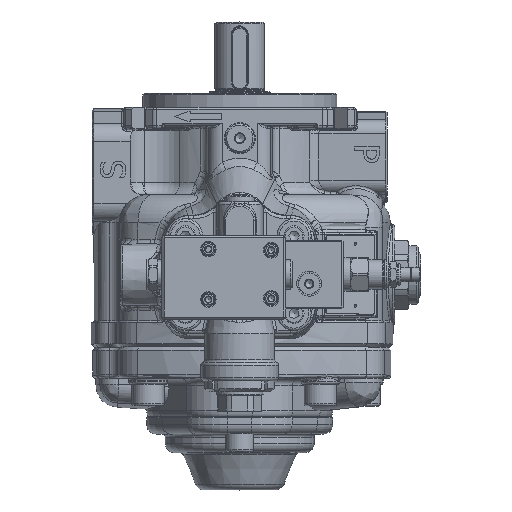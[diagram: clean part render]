
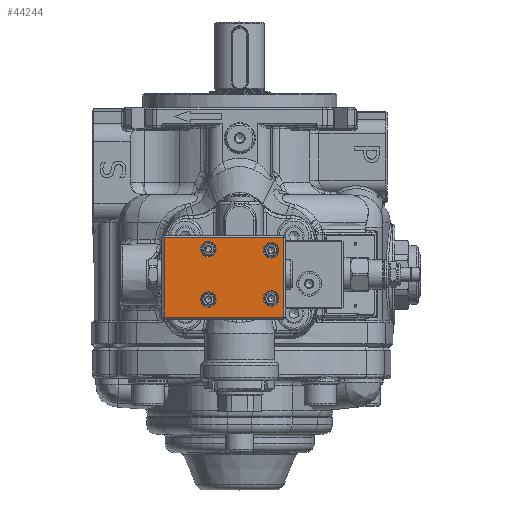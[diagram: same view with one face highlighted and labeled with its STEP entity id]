
A CAD part, top view. The second image highlights one B-rep face of the part: STEP entity #44244.
In plain terms, the highlighted planar face has unit normal (0, 0, 1).
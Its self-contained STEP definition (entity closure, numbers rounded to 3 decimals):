
#1357=FACE_BOUND('',#7500,.T.);
#1358=FACE_BOUND('',#7501,.T.);
#1359=FACE_BOUND('',#7502,.T.);
#1360=FACE_BOUND('',#7503,.T.);
#2240=PLANE('',#48589);
#4870=FACE_OUTER_BOUND('',#7499,.T.);
#7499=EDGE_LOOP('',(#38083,#38084,#38085,#38086));
#7500=EDGE_LOOP('',(#38087));
#7501=EDGE_LOOP('',(#38088));
#7502=EDGE_LOOP('',(#38089));
#7503=EDGE_LOOP('',(#38090));
#9828=CIRCLE('',#48438,5.);
#9831=CIRCLE('',#48443,5.);
#9834=CIRCLE('',#48448,5.);
#9837=CIRCLE('',#48453,5.);
#13376=LINE('',#92540,#15903);
#13377=LINE('',#92542,#15904);
#13378=LINE('',#92544,#15905);
#13379=LINE('',#92545,#15906);
#15903=VECTOR('',#59522,10.);
#15904=VECTOR('',#59523,10.);
#15905=VECTOR('',#59524,10.);
#15906=VECTOR('',#59525,10.);
#19673=VERTEX_POINT('',#91943);
#19676=VERTEX_POINT('',#91953);
#19679=VERTEX_POINT('',#91963);
#19682=VERTEX_POINT('',#91973);
#19879=VERTEX_POINT('',#92538);
#19880=VERTEX_POINT('',#92539);
#19881=VERTEX_POINT('',#92541);
#19882=VERTEX_POINT('',#92543);
#25764=EDGE_CURVE('',#19673,#19673,#9828,.T.);
#25769=EDGE_CURVE('',#19676,#19676,#9831,.T.);
#25774=EDGE_CURVE('',#19679,#19679,#9834,.T.);
#25779=EDGE_CURVE('',#19682,#19682,#9837,.T.);
#26008=EDGE_CURVE('',#19879,#19880,#13376,.T.);
#26009=EDGE_CURVE('',#19881,#19879,#13377,.T.);
#26010=EDGE_CURVE('',#19882,#19881,#13378,.T.);
#26011=EDGE_CURVE('',#19880,#19882,#13379,.T.);
#38083=ORIENTED_EDGE('',*,*,#26008,.F.);
#38084=ORIENTED_EDGE('',*,*,#26009,.F.);
#38085=ORIENTED_EDGE('',*,*,#26010,.F.);
#38086=ORIENTED_EDGE('',*,*,#26011,.F.);
#38087=ORIENTED_EDGE('',*,*,#25779,.F.);
#38088=ORIENTED_EDGE('',*,*,#25769,.F.);
#38089=ORIENTED_EDGE('',*,*,#25764,.F.);
#38090=ORIENTED_EDGE('',*,*,#25774,.F.);
#44244=ADVANCED_FACE('',(#4870,#1357,#1358,#1359,#1360),#2240,.T.);
#48438=AXIS2_PLACEMENT_3D('',#91944,#59102,#59103);
#48443=AXIS2_PLACEMENT_3D('',#91954,#59114,#59115);
#48448=AXIS2_PLACEMENT_3D('',#91964,#59126,#59127);
#48453=AXIS2_PLACEMENT_3D('',#91974,#59138,#59139);
#48589=AXIS2_PLACEMENT_3D('',#92537,#59520,#59521);
#59102=DIRECTION('center_axis',(0.,0.,
1.));
#59103=DIRECTION('ref_axis',(0.,-1.,0.));
#59114=DIRECTION('center_axis',(0.,0.,
1.));
#59115=DIRECTION('ref_axis',(0.,-1.,0.));
#59126=DIRECTION('center_axis',(0.,0.,
1.));
#59127=DIRECTION('ref_axis',(0.,-1.,0.));
#59138=DIRECTION('center_axis',(0.,0.,
1.));
#59139=DIRECTION('ref_axis',(0.,-1.,0.));
#59520=DIRECTION('center_axis',(0.,0.,
1.));
#59521=DIRECTION('ref_axis',(0.,1.,0.));
#59522=DIRECTION('',(-1.,0.,0.));
#59523=DIRECTION('',(0.,-1.,0.));
#59524=DIRECTION('',(1.,0.,0.));
#59525=DIRECTION('',(0.,1.,0.));
#91943=CARTESIAN_POINT('',(-23.792,-47.472,236.023));
#91944=CARTESIAN_POINT('Origin',(-23.792,-52.472,236.023));
#91953=CARTESIAN_POINT('',(16.708,-15.722,236.023));
#91954=CARTESIAN_POINT('Origin',(16.708,-20.722,236.023));
#91963=CARTESIAN_POINT('',(-23.792,-14.972,236.023));
#91964=CARTESIAN_POINT('Origin',(-23.792,-19.972,236.023));
#91973=CARTESIAN_POINT('',(16.708,-46.722,236.023));
#91974=CARTESIAN_POINT('Origin',(16.708,-51.722,236.023));
#92537=CARTESIAN_POINT('Origin',(-13.792,-38.222,236.023));
#92538=CARTESIAN_POINT('',(24.708,-63.722,236.023));
#92539=CARTESIAN_POINT('',(-52.292,-63.722,236.023));
#92540=CARTESIAN_POINT('',(6.208,-63.722,236.023));
#92541=CARTESIAN_POINT('',(24.708,-12.722,236.023));
#92542=CARTESIAN_POINT('',(24.708,-24.722,236.023));
#92543=CARTESIAN_POINT('',(-52.292,-12.722,236.023));
#92544=CARTESIAN_POINT('',(-33.792,-12.722,236.023));
#92545=CARTESIAN_POINT('',(-52.292,-51.722,236.023));
